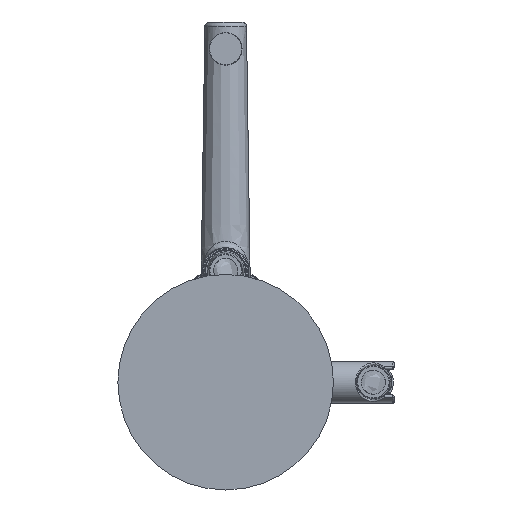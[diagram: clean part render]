
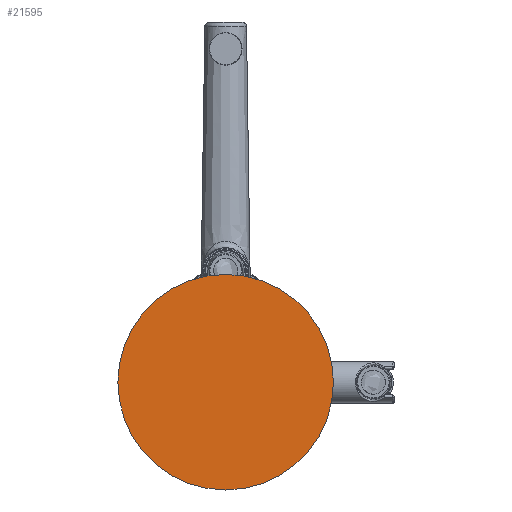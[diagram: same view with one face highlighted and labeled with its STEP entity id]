
A CAD part, front view. The second image highlights one B-rep face of the part: STEP entity #21595.
In plain terms, the highlighted planar face has unit normal (0, -1, 0).
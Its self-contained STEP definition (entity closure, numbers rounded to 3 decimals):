
#1091 = DIRECTION ( 'NONE',  ( 1., 0., 0. ) ) ;
#1189 = CARTESIAN_POINT ( 'NONE',  ( 0., -717.5, 0. ) ) ;
#1375 = DIRECTION ( 'NONE',  ( 0., 1., 0. ) ) ;
#3051 = DIRECTION ( 'NONE',  ( 1., 0., 0. ) ) ;
#3194 = EDGE_CURVE ( 'NONE', #12875, #26007, #22557, .T. ) ;
#4529 = CARTESIAN_POINT ( 'NONE',  ( -67.5, -717.5, 0. ) ) ;
#7846 = CARTESIAN_POINT ( 'NONE',  ( 0., -717.5, 0. ) ) ;
#8680 = EDGE_LOOP ( 'NONE', ( #13819, #28127 ) ) ;
#12875 = VERTEX_POINT ( 'NONE', #4529 ) ;
#13819 = ORIENTED_EDGE ( 'NONE', *, *, #3194, .T. ) ;
#15484 = AXIS2_PLACEMENT_3D ( 'NONE', #7846, #20757, #1091 ) ;
#16552 = DIRECTION ( 'NONE',  ( 1., 0., 0. ) ) ;
#16937 = CIRCLE ( 'NONE', #23248, 67.5 ) ;
#18095 = AXIS2_PLACEMENT_3D ( 'NONE', #1189, #1375, #16552 ) ;
#20458 = CARTESIAN_POINT ( 'NONE',  ( 67.5, -717.5, 0. ) ) ;
#20757 = DIRECTION ( 'NONE',  ( 0., -1., 0. ) ) ;
#21595 = ADVANCED_FACE ( 'NONE', ( #25841 ), #22946, .F. ) ;
#22557 = CIRCLE ( 'NONE', #15484, 67.5 ) ;
#22801 = DIRECTION ( 'NONE',  ( 0., -1., 0. ) ) ;
#22946 = PLANE ( 'NONE',  #18095 ) ;
#23248 = AXIS2_PLACEMENT_3D ( 'NONE', #26996, #22801, #3051 ) ;
#25488 = EDGE_CURVE ( 'NONE', #26007, #12875, #16937, .T. ) ;
#25841 = FACE_OUTER_BOUND ( 'NONE', #8680, .T. ) ;
#26007 = VERTEX_POINT ( 'NONE', #20458 ) ;
#26996 = CARTESIAN_POINT ( 'NONE',  ( 0., -717.5, 0. ) ) ;
#28127 = ORIENTED_EDGE ( 'NONE', *, *, #25488, .T. ) ;
